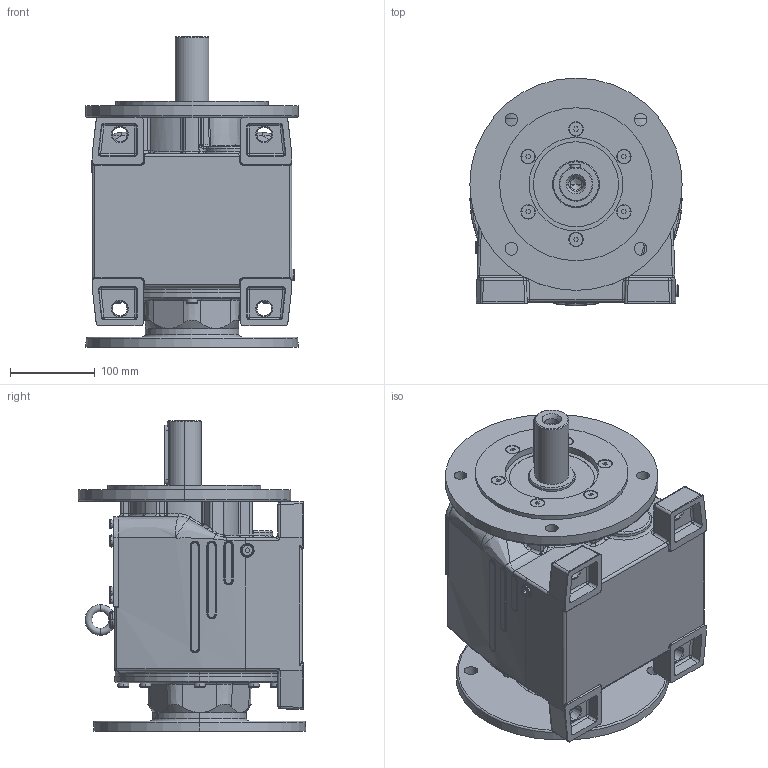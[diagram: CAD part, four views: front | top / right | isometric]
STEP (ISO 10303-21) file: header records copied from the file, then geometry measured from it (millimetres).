
FILE_DESCRIPTION (( 'STEP AP214' ), '1' );
FILE_NAME ('MTC52A-132-215+VP.STEP', '2006-05-05T05:40:10', ( '' ), ( '' ), 'SwSTEP 2.0', 'SolidWorks 2004146', '' );
FILE_SCHEMA (( 'AUTOMOTIVE_DESIGN' ));
Length unit declared in the file: millimetre
Products named in the file (6): MTC52A-132-215+VP; D6912_Šroub DIN 6912 - M8x25; Výst_pøíruba MTC_A_MTC5_A; Pøíruba MRT120 kulatá _180-215-250; Skrin MTC5_A_MTC52A_AP132; D7991_Šroub DIN 7991 - M8 x 25
Assembly tree (15 placements, depth 2):
  MTC52A-132-215+VP
    D7991_Šroub DIN 7991 - M8 x 25  x6
    D6912_Šroub DIN 6912 - M8x25  x6
    Výst_pøíruba MTC_A_MTC5_A
    Pøíruba MRT120 kulatá _180-215-250
    Skrin MTC5_A_MTC52A_AP132
Bounding box: 250 x 267.8 x 365.5 mm (x, y, z)
Volume: 10728039.2 mm3; surface area: 599200.7 mm2
Topology: 15 solids, 15 shells, 1492 faces, 3404 edges, 1990 vertices
Faces by surface type: plane 452, cylinder 399, cone 260, torus 226, bspline 126, sphere 29
Entity records: 112261 total; most frequent: CARTESIAN_POINT 80671, DIRECTION 5955, ORIENTED_EDGE 5638, EDGE_CURVE 2819, AXIS2_PLACEMENT_3D 2400, VERTEX_POINT 1712, EDGE_LOOP 1361, CIRCLE 1296
